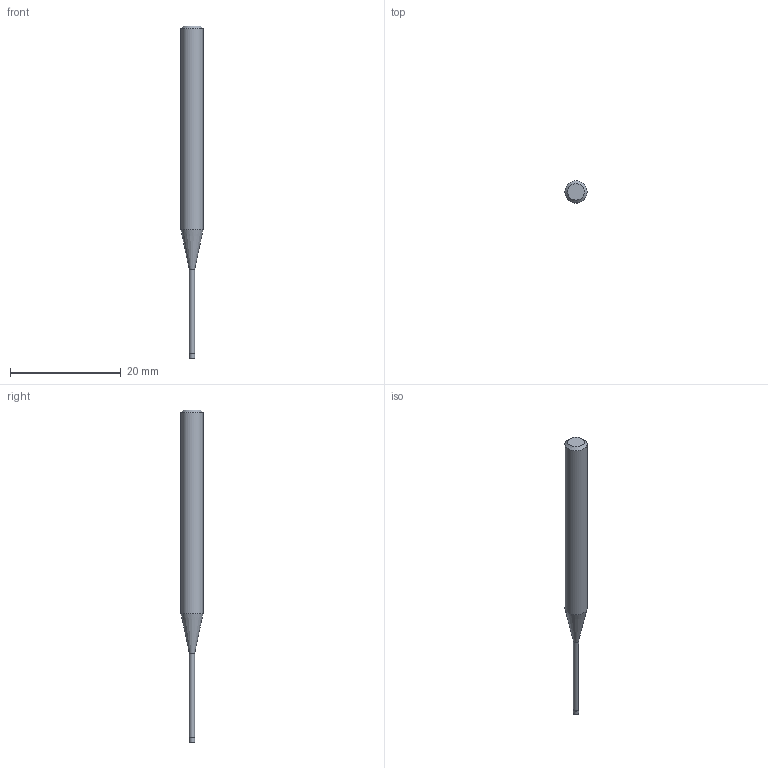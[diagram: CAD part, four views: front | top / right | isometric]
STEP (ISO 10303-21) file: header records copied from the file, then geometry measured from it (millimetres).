
FILE_DESCRIPTION((''),'2;1');
FILE_NAME('C:\Users\nsx150\AppData\Local\Temp\Mastercam 2021\RJ5U8K7RMU\TEMP.step','2021-04-21T16:41:10',(''),(''),'STEP Write','Mastercam 2021 ... CNC Software, Inc.','');
FILE_SCHEMA(('AUTOMOTIVE_DESIGN'));
Length unit declared in the file: millimetre
Products named in the file (1): None
Bounding box: 4 x 4 x 60 mm (x, y, z)
Volume: 511.6 mm3; surface area: 578.5 mm2
Topology: 2 solids, 2 shells, 9 faces, 12 edges, 7 vertices
Faces by surface type: plane 4, cylinder 3, cone 2
Full cylindrical faces by diameter (mm): 0.95 x1, 1 x1, 4 x1
Entity records: 211 total; most frequent: DIRECTION 36, CARTESIAN_POINT 25, AXIS2_PLACEMENT_3D 18, ORIENTED_EDGE 14, EDGE_LOOP 14, STYLED_ITEM 12, ADVANCED_FACE 9, FACE_BOUND 8
